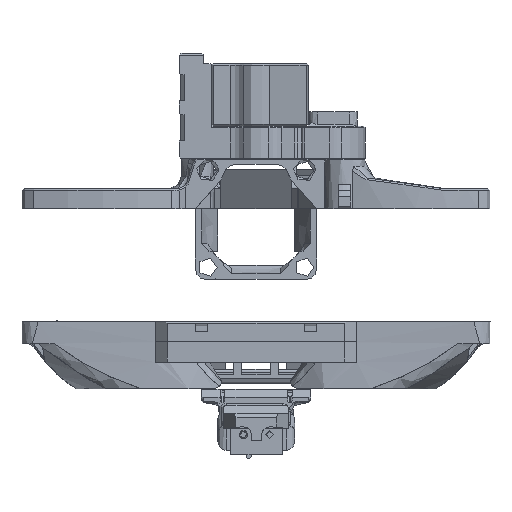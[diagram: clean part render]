
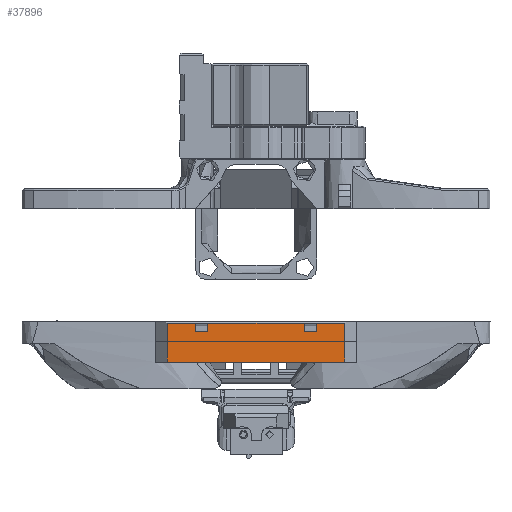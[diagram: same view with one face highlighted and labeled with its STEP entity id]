
A CAD part, left-side view. The second image highlights one B-rep face of the part: STEP entity #37896.
In plain terms, the highlighted planar face has unit normal (-1, 0, 0) as drawn and (0, 1, 0) by its records, which use the part's own axes.
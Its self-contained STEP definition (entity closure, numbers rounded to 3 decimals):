
#5252=FACE_OUTER_BOUND('',#7400,.T.);
#7400=EDGE_LOOP('',(#30528,#30529,#30530,#30531,#30532,#30533,#30534,#30535,
#30536,#30537,#30538,#30539));
#10155=LINE('',#59816,#13260);
#10158=LINE('',#59821,#13263);
#10162=LINE('',#59829,#13267);
#10169=LINE('',#59846,#13274);
#10171=LINE('',#59853,#13276);
#10178=LINE('',#59868,#13283);
#10192=LINE('',#59949,#13297);
#10266=LINE('',#60202,#13371);
#10268=LINE('',#60205,#13373);
#10269=LINE('',#60207,#13374);
#10431=LINE('',#61852,#13536);
#10438=LINE('',#62689,#13543);
#13260=VECTOR('',#46762,10.);
#13263=VECTOR('',#46765,10.);
#13267=VECTOR('',#46769,10.);
#13274=VECTOR('',#46782,10.);
#13276=VECTOR('',#46790,10.);
#13283=VECTOR('',#46801,10.);
#13297=VECTOR('',#46823,10.);
#13371=VECTOR('',#46999,10.);
#13373=VECTOR('',#47003,10.);
#13374=VECTOR('',#47006,10.);
#13536=VECTOR('',#47470,10.);
#13543=VECTOR('',#47489,10.);
#16463=VERTEX_POINT('',#59813);
#16464=VERTEX_POINT('',#59815);
#16465=VERTEX_POINT('',#59818);
#16466=VERTEX_POINT('',#59820);
#16469=VERTEX_POINT('',#59826);
#16470=VERTEX_POINT('',#59828);
#16477=VERTEX_POINT('',#59844);
#16479=VERTEX_POINT('',#59852);
#16485=VERTEX_POINT('',#59866);
#16500=VERTEX_POINT('',#59948);
#16558=VERTEX_POINT('',#60201);
#16728=VERTEX_POINT('',#61850);
#21182=EDGE_CURVE('',#16463,#16464,#10155,.T.);
#21185=EDGE_CURVE('',#16465,#16466,#10158,.T.);
#21189=EDGE_CURVE('',#16469,#16470,#10162,.T.);
#21198=EDGE_CURVE('',#16469,#16477,#10169,.T.);
#21201=EDGE_CURVE('',#16479,#16466,#10171,.T.);
#21209=EDGE_CURVE('',#16465,#16485,#10178,.T.);
#21231=EDGE_CURVE('',#16500,#16470,#10192,.T.);
#21332=EDGE_CURVE('',#16558,#16500,#10266,.T.);
#21334=EDGE_CURVE('',#16463,#16558,#10268,.T.);
#21335=EDGE_CURVE('',#16477,#16479,#10269,.T.);
#21617=EDGE_CURVE('',#16728,#16485,#10431,.T.);
#21645=EDGE_CURVE('',#16464,#16728,#10438,.T.);
#30528=ORIENTED_EDGE('',*,*,#21189,.F.);
#30529=ORIENTED_EDGE('',*,*,#21198,.T.);
#30530=ORIENTED_EDGE('',*,*,#21335,.T.);
#30531=ORIENTED_EDGE('',*,*,#21201,.T.);
#30532=ORIENTED_EDGE('',*,*,#21185,.F.);
#30533=ORIENTED_EDGE('',*,*,#21209,.T.);
#30534=ORIENTED_EDGE('',*,*,#21617,.F.);
#30535=ORIENTED_EDGE('',*,*,#21645,.F.);
#30536=ORIENTED_EDGE('',*,*,#21182,.F.);
#30537=ORIENTED_EDGE('',*,*,#21334,.T.);
#30538=ORIENTED_EDGE('',*,*,#21332,.T.);
#30539=ORIENTED_EDGE('',*,*,#21231,.T.);
#36459=PLANE('',#40754);
#37896=ADVANCED_FACE('',(#5252),#36459,.T.);
#40754=AXIS2_PLACEMENT_3D('',#62688,#47487,#47488);
#46762=DIRECTION('',(-1.,0.,0.));
#46765=DIRECTION('',(-1.,0.,0.));
#46769=DIRECTION('',(-1.,0.,0.));
#46782=DIRECTION('',(0.,0.,-1.));
#46790=DIRECTION('',(0.,0.,1.));
#46801=DIRECTION('',(0.,0.,-1.));
#46823=DIRECTION('',(0.,0.,1.));
#46999=DIRECTION('',(1.,0.,0.));
#47003=DIRECTION('',(0.,0.,-1.));
#47006=DIRECTION('',(1.,0.,0.));
#47470=DIRECTION('',(1.,0.,0.));
#47487=DIRECTION('center_axis',(0.,1.,0.));
#47488=DIRECTION('ref_axis',(1.,0.,0.));
#47489=DIRECTION('',(0.,0.,-1.));
#59813=CARTESIAN_POINT('',(7.,39.,-0.4));
#59815=CARTESIAN_POINT('',(0.,39.,-0.4));
#59816=CARTESIAN_POINT('',(-8.004,39.,-0.4));
#59818=CARTESIAN_POINT('',(44.,39.,-0.4));
#59820=CARTESIAN_POINT('',(37.,39.,-0.4));
#59821=CARTESIAN_POINT('',(-8.004,39.,-0.4));
#59826=CARTESIAN_POINT('',(34.,39.,-0.4));
#59828=CARTESIAN_POINT('',(10.,39.,-0.4));
#59829=CARTESIAN_POINT('',(-8.004,39.,-0.4));
#59844=CARTESIAN_POINT('',(34.,39.,-2.5));
#59846=CARTESIAN_POINT('',(34.,39.,-1.25));
#59852=CARTESIAN_POINT('',(37.,39.,-2.5));
#59853=CARTESIAN_POINT('',(37.,39.,-0.5));
#59866=CARTESIAN_POINT('',(44.,39.,-10.));
#59868=CARTESIAN_POINT('',(44.,39.,0.));
#59948=CARTESIAN_POINT('',(10.,39.,-2.5));
#59949=CARTESIAN_POINT('',(10.,39.,-0.5));
#60201=CARTESIAN_POINT('',(7.,39.,-2.5));
#60202=CARTESIAN_POINT('',(5.,39.,-2.5));
#60205=CARTESIAN_POINT('',(7.,39.,-1.25));
#60207=CARTESIAN_POINT('',(18.5,39.,-2.5));
#61850=CARTESIAN_POINT('',(0.,39.,-10.));
#61852=CARTESIAN_POINT('',(0.,39.,-10.));
#62688=CARTESIAN_POINT('Origin',(0.,39.,
0.));
#62689=CARTESIAN_POINT('',(0.,39.,0.));
